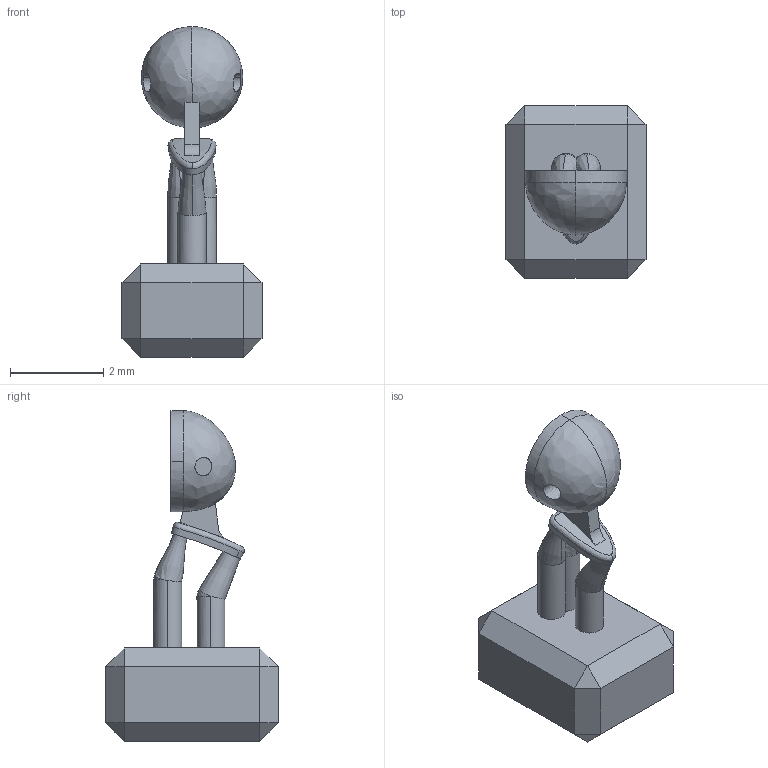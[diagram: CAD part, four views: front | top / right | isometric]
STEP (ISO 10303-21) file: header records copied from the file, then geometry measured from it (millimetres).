
FILE_DESCRIPTION(/* description */ (''),/* implementation_level */ '2;1');
FILE_NAME(/* name */ 'HELLCA~1',/* time_stamp */ '2021-04-27T22:03:43+02:00',/* author */ (''),/* organization */ (''),/* preprocessor_version */ 'ST-DEVELOPER v16.5',/* originating_system */ '',/* authorisation */ '');
FILE_SCHEMA (('CONFIG_CONTROL_DESIGN'));
Length unit declared in the file: millimetre
Products named in the file (1): Document
Bounding box: 3 x 3.7 x 7.08 mm (x, y, z)
Volume: 24.9 mm3; surface area: 69 mm2
Topology: 1 solids, 1 shells, 71 faces, 173 edges, 98 vertices
Faces by surface type: bspline 35, plane 29, cylinder 7
Entity records: 3780 total; most frequent: CARTESIAN_POINT 2647, ORIENTED_EDGE 326, EDGE_CURVE 163, B_SPLINE_CURVE_WITH_KNOTS 104, VERTEX_POINT 98, EDGE_LOOP 79, ADVANCED_FACE 71, FACE_OUTER_BOUND 71
